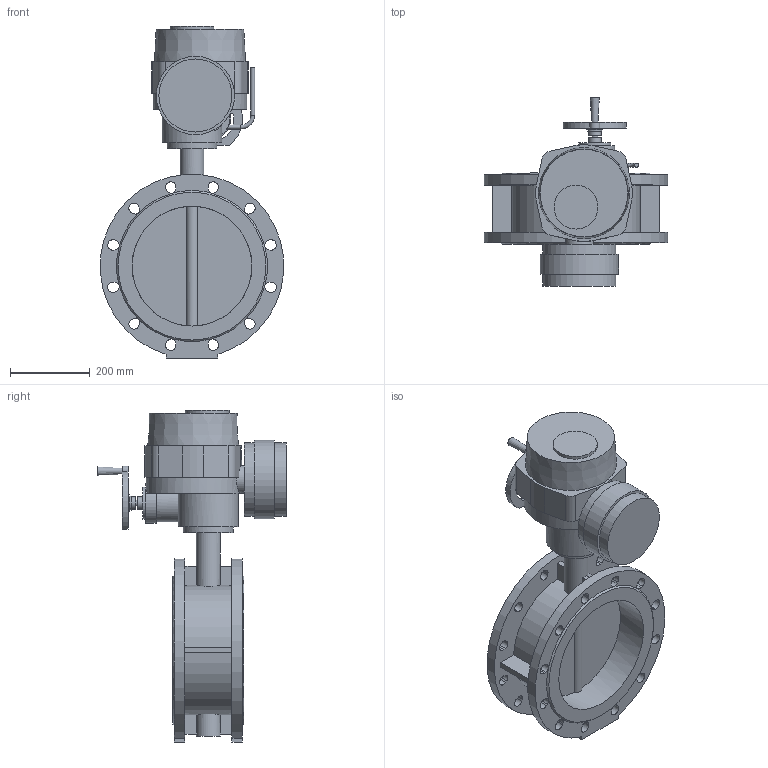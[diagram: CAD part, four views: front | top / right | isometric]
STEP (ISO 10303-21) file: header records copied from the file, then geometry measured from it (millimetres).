
FILE_DESCRIPTION(('STEP AP203'), '1');
FILE_NAME('青蜮铕 021F.Y DN300+菹 QT.A050', '', ('UNSPECIFIED'), ('UNSPECIFIED'), 'ASCON STEP Converter 1.6', 'ASCON Math Kernel', '');
FILE_SCHEMA(('CONFIG_CONTROL_DESIGN'));
Length unit declared in the file: millimetre
Bounding box: 458.77 x 472 x 831 mm (x, y, z)
Volume: 22768915.7 mm3; surface area: 1436303.1 mm2
Topology: 1 solids, 1 shells, 257 faces, 713 edges, 463 vertices
Faces by surface type: plane 143, cylinder 108, cone 5, torus 1
Full cylindrical faces by diameter (mm): 6.7 x8, 10 x2, 12 x4, 16 x1, 32 x2, 35 x1, 60 x2, 70 x1, 80 x1, 100 x1, 110 x1, 125 x1, 150 x1, 183 x2, 196 x1, 300 x2
Entity records: 11718 total; most frequent: CARTESIAN_POINT 2930, DIRECTION 1435, ORIENTED_EDGE 1320, EDGE_CURVE 660, AXIS2_PLACEMENT_3D 539, VERTEX_POINT 455, EDGE_LOOP 377, LINE 357
